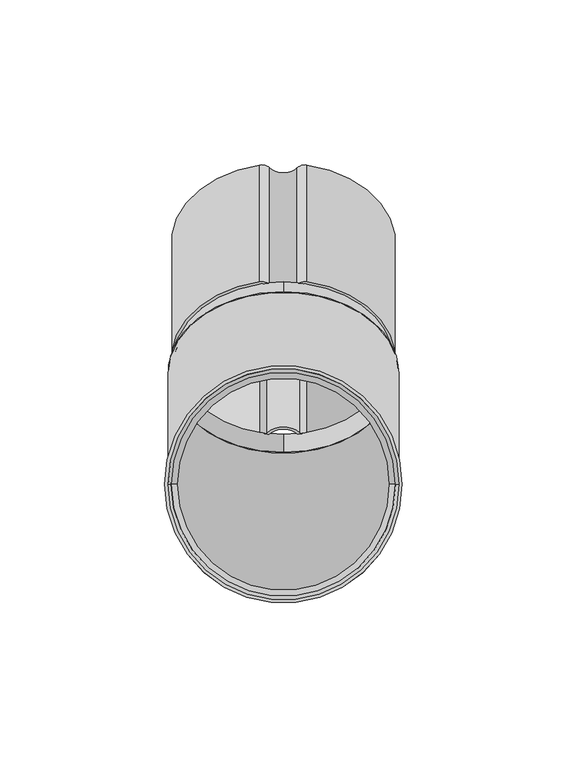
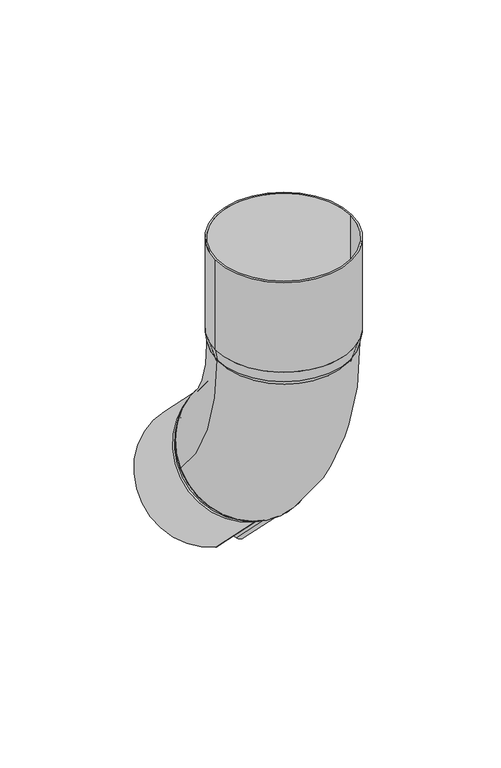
"""IFC4 building model written with IfcOpenShell, lengths in millimetres: proxy geometry, GROVIK_Downpipe_Elbow : N70_45°_Down."""

from ifc_helpers import new_model, si_unit, point, frame, frame_2d, origin, origin_with_axes, origin_2d, place, context, project, spatial, polyline, circle_curve, ellipse_curve, trimmed, segment, composite_curve, outline, extrude, source, transform, mapped, element, save
from ifc_brep_helpers import plane_surface, revolved_surface, advanced_brep


def generic_models_4e0c0bae(model_context):
    return source(origin(), model_context, "Body", "SolidModel", [
        extrude(outline(composite_curve([segment(trimmed(circle_curve(origin_2d(), 34.0), [point((-7.2, -33.2289031))], [point((-7.2, 33.2289031))], False, "CARTESIAN"), True, "CONTINUOUS"), segment(trimmed(circle_curve(frame_2d((-6.6504209, 30.1934466)), 3.0848069), [point((-7.2, 33.2289031))], [point((-4.2037022, 32.0721697))], False, "CARTESIAN"), True, "CONTINUOUS"), segment(trimmed(circle_curve(frame_2d((0.0, 35.3)), 5.3), [point((-4.2037022, 32.0721697))], [point((4.2058428, 32.0749595))], True, "CARTESIAN"), True, "CONTINUOUS"), segment(trimmed(circle_curve(frame_2d((6.6465812, 30.203401)), 3.0757007), [point((4.2058428, 32.0749595))], [point((7.2, 33.2289031))], False, "CARTESIAN"), True, "CONTINUOUS"), segment(trimmed(circle_curve(origin_2d(), 34.0), [point((7.2, 33.2289031))], [point((7.2, -33.2289031))], False, "CARTESIAN"), True, "CONTINUOUS"), segment(trimmed(circle_curve(frame_2d((6.6465812, -30.203401)), 3.0757007), [point((7.2, -33.2289031))], [point((4.2058428, -32.0749595))], False, "CARTESIAN"), True, "CONTINUOUS"), segment(trimmed(circle_curve(frame_2d((0.0, -35.3)), 5.3), [point((4.2058428, -32.0749595))], [point((-4.2037022, -32.0721698))], True, "CARTESIAN"), True, "CONTINUOUS"), segment(trimmed(circle_curve(frame_2d((-6.6504209, -30.1934466)), 3.0848069), [point((-4.2037022, -32.0721698))], [point((-7.2, -33.2289031))], False, "CARTESIAN"), True, "CONTINUOUS")], self_intersect=False), holes=[composite_curve([segment(trimmed(circle_curve(frame_2d((-6.6504209, -30.1934466)), 2.0848069), [point((-7.1903364, -32.2071275))], [point((-4.9968535, -31.4631452))], True, "CARTESIAN"), True, "CONTINUOUS"), segment(trimmed(circle_curve(frame_2d((0.0, -35.3)), 6.3), [point((-4.9968535, -31.4631452))], [point((4.999398, -31.4664613))], False, "CARTESIAN"), True, "CONTINUOUS"), segment(trimmed(circle_curve(frame_2d((6.6465812, -30.203401)), 2.0757007), [point((4.999398, -31.4664613))], [point((7.1790209, -32.2096517))], True, "CARTESIAN"), True, "CONTINUOUS"), segment(trimmed(circle_curve(origin_2d(), 33.0), [point((7.1790209, -32.2096517))], [point((7.1790209, 32.2096516))], True, "CARTESIAN"), True, "CONTINUOUS"), segment(trimmed(circle_curve(frame_2d((6.6465812, 30.203401)), 2.0757007), [point((7.1790209, 32.2096516))], [point((4.999398, 31.4664612))], True, "CARTESIAN"), True, "CONTINUOUS"), segment(trimmed(circle_curve(frame_2d((0.0, 35.3)), 6.3), [point((4.999398, 31.4664612))], [point((-4.9968535, 31.4631452))], False, "CARTESIAN"), True, "CONTINUOUS"), segment(trimmed(circle_curve(frame_2d((-6.6504209, 30.1934466)), 2.0848069), [point((-4.9968535, 31.4631452))], [point((-7.1903364, 32.2071274))], True, "CARTESIAN"), True, "CONTINUOUS"), segment(trimmed(circle_curve(origin_2d(), 33.0), [point((-7.1903364, 32.2071274))], [point((-7.1903364, -32.2071275))], True, "CARTESIAN"), True, "CONTINUOUS")], self_intersect=False)]), frame((0.0, 73.3063925, -120.9241212), z_axis=(0.0, -0.7072570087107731, 0.7069565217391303), x_axis=(1.0, 0.0, 0.0)), (0.0, 0.0, 1.0), 50.0),
        extrude(outline(composite_curve([segment(trimmed(circle_curve(origin_2d(), 36.0), [point((-36.0, 0.0))], [point((36.0, 0.0))], False, "CARTESIAN"), True, "CONTINUOUS"), segment(trimmed(circle_curve(origin_2d(), 36.0), [point((36.0, 0.0))], [point((-36.0, 0.0))], False, "CARTESIAN"), True, "CONTINUOUS")], self_intersect=False), holes=[composite_curve([segment(trimmed(circle_curve(origin_2d(), 35.0), [point((-35.0, 0.0))], [point((35.0, 0.0))], True, "CARTESIAN"), True, "CONTINUOUS"), segment(trimmed(circle_curve(origin_2d(), 35.0), [point((35.0, 0.0))], [point((-35.0, 0.0))], True, "CARTESIAN"), True, "CONTINUOUS")], self_intersect=False)]), frame((0.0, 0.0, 6.0), z_axis=(0.0, 0.0, 1.0), x_axis=(1.0, 0.0, 0.0)), (0.0, 0.0, 1.0), 50.0),
        advanced_brep(
        [(-35.0, 0.0, 0.0), (35.0, 0.0, 0.0), (34.0, 0.0, 0.0), (-34.0, 0.0, 0.0), (-36.0, 0.0, 6.0), (36.0, 0.0, 6.0), (-35.0, 0.0, 6.0), (35.0, 0.0, 6.0)],
        [
            (0, 1, circle_curve(frame((0.0, 0.0, 0.0), z_axis=(0.0, 0.0, -1.0), x_axis=(-1.0, 0.0, 0.0)), 35.0)),
            (1, 0, circle_curve(frame((0.0, 0.0, 0.0), z_axis=(0.0, 0.0, -1.0), x_axis=(1.0, 0.0, 0.0)), 35.0)),
            (2, 3, circle_curve(frame((0.0, 0.0, 0.0), z_axis=(0.0, 0.0, 1.0), x_axis=(-1.0, 0.0, 0.0)), 34.0)),
            (3, 2, circle_curve(origin_with_axes(), 34.0)),
            (4, 5, circle_curve(frame((0.0, 0.0, 6.0), z_axis=(0.0, 0.0, 1.0), x_axis=(1.0, 0.0, 0.0)), 36.0)),
            (5, 4, circle_curve(frame((0.0, 0.0, 6.0), z_axis=(0.0, 0.0, 1.0), x_axis=(-1.0, 0.0, 0.0)), 36.0)),
            (6, 7, circle_curve(frame((0.0, 0.0, 6.0), z_axis=(0.0, 0.0, -1.0), x_axis=(-1.0, 0.0, 0.0)), 35.0)),
            (7, 6, circle_curve(frame((0.0, 0.0, 6.0), z_axis=(0.0, 0.0, -1.0), x_axis=(1.0, 0.0, 0.0)), 35.0)),
            (0, 4),
            (5, 1),
            (6, 3),
            (2, 7),
        ],
        [
            plane_surface(frame((0.0, 0.0, 0.0), z_axis=(0.0, 0.0, -1.0), x_axis=(0.0, 1.0, 0.0))),
            plane_surface(frame((0.0, 0.0, 6.0), z_axis=(0.0, 0.0, 1.0), x_axis=(0.0, 1.0, 0.0))),
            revolved_surface(polyline([(-35.0, 0.0, 0.0), (-36.0, 0.0, 6.0)]), (0.0, 0.0, -210.0), (0.0, 0.0, 1.0)),
            revolved_surface(polyline([(35.0, 0.0, 0.0), (36.0, 0.0, 6.0)]), (0.0, 0.0, -210.0), (0.0, 0.0, 1.0)),
            revolved_surface(polyline([(-35.0, 0.0, 6.0), (-34.0, 0.0, 0.0)]), (0.0, 0.0, -204.0), (0.0, 0.0, 1.0)),
        ],
        [
            (0, [[1, 2], [3, 4]]),
            (1, [[5, 6], [7, 8]]),
            (2, [[-1, 9, -6, 10]]),
            (3, [[-2, -10, -5, -9]]),
            (4, [[11, -3, 12, -7]]),
            (4, [[-11, -8, -12, -4]]),
        ],
    ),
        advanced_brep(
        [(0.0, 14.4725855, -109.0572278), (0.0, 61.4144986, -62.0953624), (0.0, 60.7075421, -62.8026195), (0.0, 15.1795421, -108.3499708), (0.0, 8.9565217, -106.0885513), (0.0, 58.4434783, -56.5805607), (0.0, 9.6634783, -105.3812943), (0.0, 57.7365217, -57.2878177)],
        [
            (0, 1, circle_curve(frame((0.0, 37.9435421, -85.5762951), z_axis=(0.0, 0.7072570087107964, -0.706956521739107), x_axis=(0.0, -0.7069565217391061, -0.7072570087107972)), 33.2)),
            (1, 0, circle_curve(frame((0.0, 37.9435421, -85.5762951), z_axis=(0.0, 0.7072570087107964, -0.706956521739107), x_axis=(0.0, 0.7069565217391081, 0.7072570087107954)), 33.2)),
            (2, 3, circle_curve(frame((0.0, 37.9435421, -85.5762951), z_axis=(0.0, -0.7072570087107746, 0.7069565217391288), x_axis=(0.0, -0.7069565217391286, -0.7072570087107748)), 32.2)),
            (3, 2, circle_curve(frame((0.0, 37.9435421, -85.5762951), z_axis=(0.0, -0.7072570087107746, 0.7069565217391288), x_axis=(0.0, 0.7069565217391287, 0.7072570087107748)), 32.2)),
            (4, 5, circle_curve(frame((0.0, 33.7, -81.334556), z_axis=(0.0, -0.7072570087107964, 0.706956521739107), x_axis=(0.0, 0.7069565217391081, 0.7072570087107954)), 35.0)),
            (5, 4, circle_curve(frame((0.0, 33.7, -81.334556), z_axis=(0.0, -0.7072570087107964, 0.706956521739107), x_axis=(0.0, -0.7069565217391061, -0.7072570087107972)), 35.0)),
            (6, 7, circle_curve(frame((0.0, 33.7, -81.334556), z_axis=(0.0, 0.7072570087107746, -0.7069565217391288), x_axis=(0.0, -0.7069565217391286, -0.7072570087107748)), 34.0)),
            (7, 6, circle_curve(frame((0.0, 33.7, -81.334556), z_axis=(0.0, 0.7072570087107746, -0.7069565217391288), x_axis=(0.0, 0.7069565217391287, 0.7072570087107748)), 34.0)),
            (0, 4),
            (5, 1),
            (6, 3),
            (2, 7),
        ],
        [
            plane_surface(frame((0.0, 37.9435421, -85.5762951), z_axis=(0.0, 0.7072570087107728, -0.7069565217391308), x_axis=(-1.0, 0.0, 0.0))),
            plane_surface(frame((0.0, 33.7, -81.334556), z_axis=(0.0, -0.7072570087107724, 0.706956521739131), x_axis=(-1.0, 0.0, 0.0))),
            revolved_surface(polyline([(0.0, 14.472585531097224, -109.05722783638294), (0.0, 8.956521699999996, -106.0885513)]), (0.0, 116.2133177, -163.8128169), (0.0, -0.7072570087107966, 0.7069565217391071)),
            revolved_surface(polyline([(0.0, 61.4144986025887, -62.09536242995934), (0.0, 58.443478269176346, -56.5805606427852)]), (0.0, 116.2133177, -163.8128169), (0.0, -0.7072570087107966, 0.7069565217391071)),
            revolved_surface(polyline([(0.0, 9.663478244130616, -105.3812942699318), (0.0, 15.179542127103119, -108.34997083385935)]), (0.0, 113.8557943, -161.4562951), (0.0, -0.7072570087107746, 0.7069565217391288)),
        ],
        [
            (0, [[1, 2], [3, 4]]),
            (1, [[5, 6], [7, 8]]),
            (2, [[-1, 9, -6, 10]]),
            (3, [[-2, -10, -5, -9]]),
            (4, [[11, -3, 12, -7]]),
            (4, [[-11, -8, -12, -4]]),
        ],
    ),
        advanced_brep(
        [(-33.2, 0.0, -6.0), (33.2, 0.0, -6.0), (-32.2, 0.0, -6.0), (32.2, 0.0, -6.0), (-35.0, 0.0, 0.0), (35.0, 0.0, 0.0), (34.0, 0.0, 0.0), (-34.0, 0.0, 0.0)],
        [
            (0, 1, circle_curve(frame((0.0, 0.0, -6.0), z_axis=(0.0, 0.0, -1.0), x_axis=(-1.0, 0.0, 0.0)), 33.2)),
            (1, 0, circle_curve(frame((0.0, 0.0, -6.0), z_axis=(0.0, 0.0, -1.0), x_axis=(1.0, 0.0, 0.0)), 33.2)),
            (2, 3, circle_curve(frame((0.0, 0.0, -6.0), z_axis=(0.0, 0.0, 1.0), x_axis=(1.0, 0.0, 0.0)), 32.2)),
            (3, 2, circle_curve(frame((0.0, 0.0, -6.0), z_axis=(0.0, 0.0, 1.0), x_axis=(-1.0, 0.0, 0.0)), 32.2)),
            (4, 5, circle_curve(origin_with_axes(), 35.0)),
            (5, 4, circle_curve(frame((0.0, 0.0, 0.0), z_axis=(0.0, 0.0, 1.0), x_axis=(-1.0, 0.0, 0.0)), 35.0)),
            (6, 7, circle_curve(frame((0.0, 0.0, 0.0), z_axis=(0.0, 0.0, -1.0), x_axis=(1.0, 0.0, 0.0)), 34.0)),
            (7, 6, circle_curve(frame((0.0, 0.0, 0.0), z_axis=(0.0, 0.0, -1.0), x_axis=(-1.0, 0.0, 0.0)), 34.0)),
            (1, 5),
            (4, 0),
            (6, 3),
            (2, 7),
        ],
        [
            plane_surface(frame((0.0, 0.0, -6.0), z_axis=(0.0, 0.0, -1.0), x_axis=(0.0, 1.0, 0.0))),
            plane_surface(frame((0.0, 0.0, 0.0), z_axis=(0.0, 0.0, 1.0), x_axis=(0.0, 1.0, 0.0))),
            revolved_surface(polyline([(33.20000000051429, 0.0, -6.0), (35.0, 0.0, 0.0)]), (0.0, 0.0, -116.6666667), (0.0, 0.0, 1.0)),
            revolved_surface(polyline([(-33.20000000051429, 0.0, -6.0), (-35.0, 0.0, 0.0)]), (0.0, 0.0, -116.6666667), (0.0, 0.0, 1.0)),
            revolved_surface(polyline([(34.0, 0.0, 0.0), (32.19999999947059, 0.0, -6.0)]), (0.0, 0.0, -113.3333333), (0.0, 0.0, 1.0)),
        ],
        [
            (0, [[1, 2], [3, 4]]),
            (1, [[5, 6], [7, 8]]),
            (2, [[-2, 9, -5, 10]]),
            (3, [[-1, -10, -6, -9]]),
            (4, [[11, -3, 12, -7]]),
            (4, [[-11, -8, -12, -4]]),
        ],
    ),
        advanced_brep(
        [(-35.0, 0.0, 0.0), (35.0, 0.0, 0.0), (-34.0, 0.0, 0.0), (34.0, 0.0, 0.0), (-35.0, 33.7, -81.334556), (35.0, 33.7, -81.334556), (-34.0, 33.7, -81.334556), (34.0, 33.7, -81.334556)],
        [
            (0, 1, circle_curve(origin_with_axes(), 35.0)),
            (1, 0, circle_curve(origin_with_axes(), 35.0)),
            (2, 3, circle_curve(frame((0.0, 0.0, 0.0), z_axis=(0.0, 0.0, -1.0), x_axis=(1.0, 0.0, 0.0)), 34.0)),
            (3, 2, circle_curve(frame((0.0, 0.0, 0.0), z_axis=(0.0, 0.0, -1.0), x_axis=(1.0, 0.0, 0.0)), 34.0)),
            (4, 5, circle_curve(frame((0.0, 33.7, -81.334556), z_axis=(0.0, 0.7072570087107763, -0.706956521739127), x_axis=(1.0, 0.0, 0.0)), 35.0)),
            (5, 4, circle_curve(frame((0.0, 33.7, -81.334556), z_axis=(0.0, 0.7072570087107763, -0.706956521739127), x_axis=(1.0, 0.0, 0.0)), 35.0)),
            (6, 7, circle_curve(frame((0.0, 33.7, -81.334556), z_axis=(0.0, -0.7072570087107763, 0.706956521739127), x_axis=(1.0, 0.0, 0.0)), 34.0)),
            (7, 6, circle_curve(frame((0.0, 33.7, -81.334556), z_axis=(0.0, -0.7072570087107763, 0.706956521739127), x_axis=(1.0, 0.0, 0.0)), 34.0)),
            (7, 3, circle_curve(frame((34.0, 115.0, 0.0), z_axis=(-1.0, 0.0, 0.0), x_axis=(0.0, -1.0, 0.0)), 115.0)),
            (2, 6, circle_curve(frame((-34.0, 115.0, 0.0), z_axis=(1.0, 0.0, 0.0), x_axis=(0.0, -1.0, 0.0)), 115.0)),
            (5, 1, circle_curve(frame((35.0, 115.0, 0.0), z_axis=(-1.0, 0.0, 0.0), x_axis=(0.0, -1.0, 0.0)), 115.0)),
            (0, 4, circle_curve(frame((-35.0, 115.0, 0.0), z_axis=(1.0, 0.0, 0.0), x_axis=(0.0, -1.0, 0.0)), 115.0)),
        ],
        [
            plane_surface(origin_with_axes()),
            plane_surface(frame((0.0, 33.7, -81.334556), z_axis=(0.0, 0.7072570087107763, -0.706956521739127), x_axis=(1.0, 0.0, 0.0))),
            revolved_surface(trimmed(ellipse_curve(frame((0.0, 0.0, 0.0), z_axis=(0.0, 0.0, -1.0), x_axis=(1.0, 0.0, 0.0)), 34.0, 34.0), [point((-34.0, 0.0, 0.0))], [point((34.0, 0.0, 0.0))], True, "CARTESIAN"), (0.0, 115.0, 0.0), (1.0, 0.0, 0.0)),
            revolved_surface(trimmed(ellipse_curve(frame((0.0, 0.0, 0.0), z_axis=(0.0, 0.0, -1.0), x_axis=(1.0, 0.0, 0.0)), 34.0, 34.0), [point((34.0, 0.0, 0.0))], [point((-34.0, 0.0, 0.0))], True, "CARTESIAN"), (0.0, 115.0, 0.0), (1.0, 0.0, 0.0)),
            revolved_surface(trimmed(ellipse_curve(origin_with_axes(), 35.0, 35.0), [point((-35.0, 0.0, 0.0))], [point((35.0, 0.0, 0.0))], True, "CARTESIAN"), (0.0, 115.0, 0.0), (1.0, 0.0, 0.0)),
            revolved_surface(trimmed(ellipse_curve(origin_with_axes(), 35.0, 35.0), [point((35.0, 0.0, 0.0))], [point((-35.0, 0.0, 0.0))], True, "CARTESIAN"), (0.0, 115.0, 0.0), (1.0, 0.0, 0.0)),
        ],
        [
            (0, [[1, 2], [3, 4]]),
            (1, [[5, 6], [7, 8]]),
            (2, [[9, -3, 10, -8]]),
            (3, [[-10, -4, -9, -7]]),
            (4, [[11, -1, 12, -6]]),
            (5, [[-12, -2, -11, -5]]),
        ],
    ),
    ])


if __name__ == "__main__":
    model = new_model("IFC4")
    model_context = context("Model", 3, world=origin())
    ifc_project = project(units=[si_unit("LENGTHUNIT", "METRE", prefix="MILLI")], contexts=[model_context])
    site = spatial("IfcSite", under=ifc_project)
    building = spatial("IfcBuilding", under=site)
    placement = place(None, origin())
    generic_models_shape = generic_models_4e0c0bae(model_context)
    element("IfcBuildingElementProxy", 1, Name="GROVIK_Downpipe_Elbow : N70_45°_Down", ObjectType="GROVIK_Downpipe_Elbow : N70_45°_Down", at=placement, inside=building, context=model_context, shape_type="MappedRepresentation", body=[
        mapped(generic_models_shape, transform((0.0, 0.0, 0.0), x_axis=(1.0, 0.0, 0.0), y_axis=(0.0, 1.0, 0.0), z_axis=(0.0, 0.0, 1.0))),
    ])
    save(model, "model.ifc")
